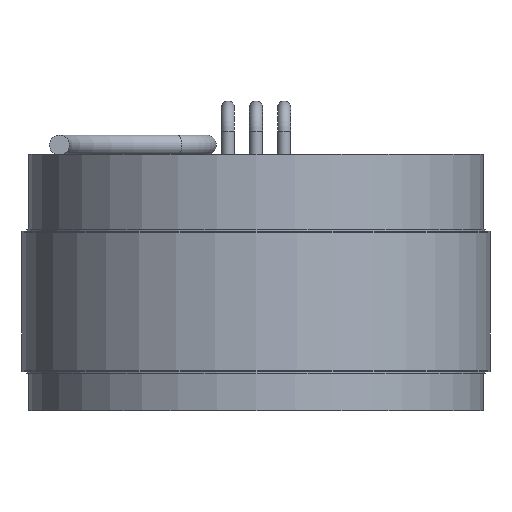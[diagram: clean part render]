
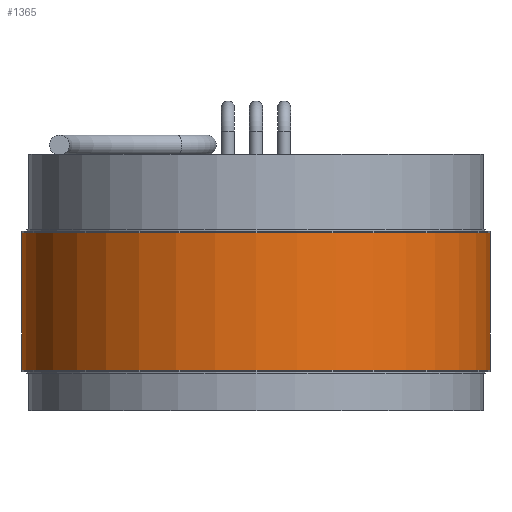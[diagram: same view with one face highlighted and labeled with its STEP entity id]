
A CAD part, front view. The second image highlights one B-rep face of the part: STEP entity #1365.
In plain terms, the highlighted cylindrical face has radius 31.75 mm (diameter 63.5 mm), a full revolution.
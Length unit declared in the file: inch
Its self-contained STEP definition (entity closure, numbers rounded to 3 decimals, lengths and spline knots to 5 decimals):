
#29 = CIRCLE ( 'NONE', #340, 1.25 ) ;
#77 = DIRECTION ( 'NONE',  ( 1., 0., 0. ) ) ;
#125 = CARTESIAN_POINT ( 'NONE',  ( 0., 0., -0.385 ) ) ;
#145 = CARTESIAN_POINT ( 'NONE',  ( 1.25, 0., -0.36713 ) ) ;
#190 = DIRECTION ( 'NONE',  ( 0., 0., 1. ) ) ;
#253 = FACE_OUTER_BOUND ( 'NONE', #551, .T. ) ;
#332 = ORIENTED_EDGE ( 'NONE', *, *, #1094, .F. ) ;
#340 = AXIS2_PLACEMENT_3D ( 'NONE', #739, #190, #1390 ) ;
#346 = DIRECTION ( 'NONE',  ( 0., 0., 1. ) ) ;
#354 = CIRCLE ( 'NONE', #573, 1.25 ) ;
#374 = VERTEX_POINT ( 'NONE', #1140 ) ;
#551 = EDGE_LOOP ( 'NONE', ( #332 ) ) ;
#573 = AXIS2_PLACEMENT_3D ( 'NONE', #844, #628, #77 ) ;
#605 = ORIENTED_EDGE ( 'NONE', *, *, #630, .T. ) ;
#628 = DIRECTION ( 'NONE',  ( 0., 0., 1. ) ) ;
#630 = EDGE_CURVE ( 'NONE', #706, #706, #354, .T. ) ;
#691 = CYLINDRICAL_SURFACE ( 'NONE', #1386, 1.25 ) ;
#706 = VERTEX_POINT ( 'NONE', #145 ) ;
#739 = CARTESIAN_POINT ( 'NONE',  ( 0., 0., 0.36713 ) ) ;
#844 = CARTESIAN_POINT ( 'NONE',  ( 0., 0., -0.36713 ) ) ;
#886 = DIRECTION ( 'NONE',  ( 1., 0., 0. ) ) ;
#1094 = EDGE_CURVE ( 'NONE', #374, #374, #29, .T. ) ;
#1140 = CARTESIAN_POINT ( 'NONE',  ( 1.25, 0., 0.36713 ) ) ;
#1173 = FACE_OUTER_BOUND ( 'NONE', #1400, .T. ) ;
#1365 = ADVANCED_FACE ( 'NONE', ( #253, #1173 ), #691, .T. ) ;
#1386 = AXIS2_PLACEMENT_3D ( 'NONE', #125, #346, #886 ) ;
#1390 = DIRECTION ( 'NONE',  ( 1., 0., 0. ) ) ;
#1400 = EDGE_LOOP ( 'NONE', ( #605 ) ) ;
